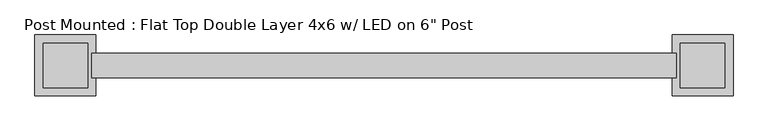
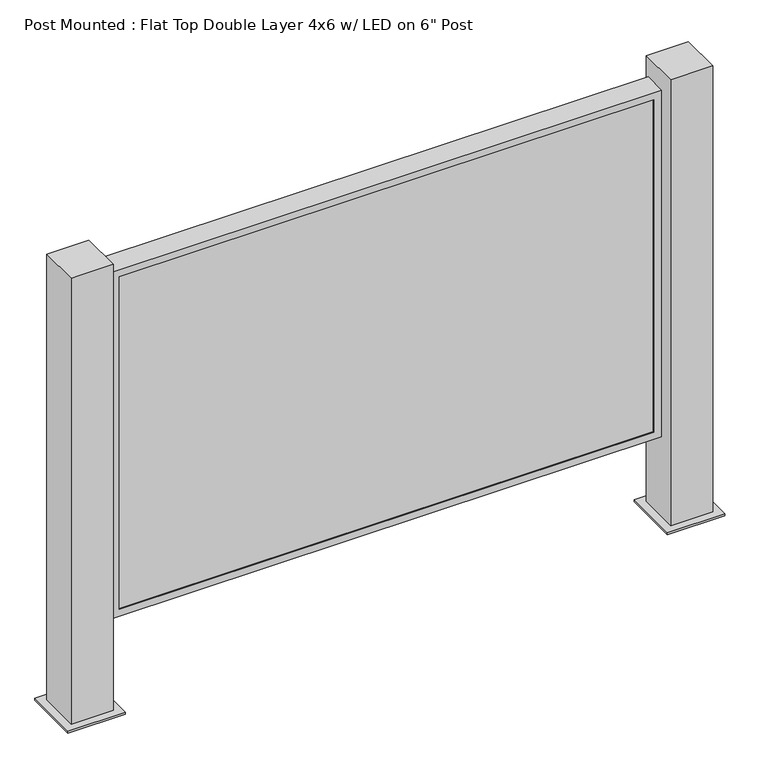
"""IFC4 building model written with IfcOpenShell, lengths in millimetres: proxy geometry."""

import ifcopenshell
import ifcopenshell.guid

model = None  # the IFC model being written
_history = None  # IfcOwnerHistory: only IFC2X3 demands one
_inside = {}  # id of a spatial element -> (the spatial element, [elements in it])
_under = {}  # id of a project, library or spatial element -> (it, [spatial elements below it])
_declared = {}  # id of a project -> (the project, [libraries it declares])
_typed = {}  # id of a type object -> (the type object, [elements of that type])
_made_of = {}  # id of a material, layer set ... -> (it, [elements and type objects made of it])


def new_model(schema):
    """Start an empty IFC model of exactly this schema.

    Asked for "IFC4X3", IfcOpenShell would pick the latest addendum, in which some entities
    have other attributes; the version numbers below select the first issue.
    IFC2X3 requires an IfcOwnerHistory on every rooted entity: one is made here for all.
    """
    global model, _history
    if schema == "IFC4X3":
        model = ifcopenshell.file(schema_version=(4, 3, 0, 0))
    else:
        model = ifcopenshell.file(schema=schema)
    _inside.clear()
    _under.clear()
    _declared.clear()
    _typed.clear()
    _made_of.clear()
    _history = None
    if model.schema == "IFC2X3":
        org = make("IfcOrganization", Name="unknown")
        user = make(
            "IfcPersonAndOrganization",
            ThePerson=make("IfcPerson", FamilyName="unknown"),
            TheOrganization=org,
        )
        app = make(
            "IfcApplication",
            ApplicationDeveloper=org,
            Version="unknown",
            ApplicationFullName="unknown",
            ApplicationIdentifier="unknown",
        )
        _history = make(
            "IfcOwnerHistory",
            OwningUser=user,
            OwningApplication=app,
            ChangeAction="ADDED",
            CreationDate=0,
        )
    return model


def make(cls, **values):
    """One entity of the class cls with the attributes given. An attribute that is None is left unset."""
    return model.create_entity(
        cls, **{name: value for name, value in values.items() if value is not None}
    )


def rooted(cls, **values):
    """An entity with a GlobalId (a new one), such as an element, a storey or a relation."""
    return make(cls, GlobalId=ifcopenshell.guid.new(), OwnerHistory=_history, **values)


def si_unit(unit_type, name, prefix=None):
    """IfcSIUnit, for example si_unit("LENGTHUNIT", "METRE", prefix="MILLI")."""
    return make("IfcSIUnit", UnitType=unit_type, Prefix=prefix, Name=name)


def assignment(units):
    """IfcUnitAssignment: the units of a project."""
    return None if units is None else make("IfcUnitAssignment", Units=units)


def point(xyz):
    """IfcCartesianPoint."""
    return None if xyz is None else make("IfcCartesianPoint", Coordinates=xyz)


def direction(xyz):
    """IfcDirection."""
    return None if xyz is None else make("IfcDirection", DirectionRatios=xyz)


def frame(location, z_axis=None, x_axis=None):
    """IfcAxis2Placement3D, a coordinate frame: its origin and axes. An axis left out is left unset."""
    return make(
        "IfcAxis2Placement3D",
        Location=point(location),
        Axis=direction(z_axis),
        RefDirection=direction(x_axis),
    )


def origin():
    """The frame at (0, 0, 0) with its axes left unset."""
    return frame((0.0, 0.0, 0.0))


def origin_with_axes():
    """The frame at (0, 0, 0) with the z axis (0, 0, 1) and the x axis (1, 0, 0) written out."""
    return frame((0.0, 0.0, 0.0), z_axis=(0.0, 0.0, 1.0), x_axis=(1.0, 0.0, 0.0))


def place(relative_to, where):
    """IfcLocalPlacement: puts the frame where relative to a parent placement (None: the world)."""
    return make(
        "IfcLocalPlacement", PlacementRelTo=relative_to, RelativePlacement=where
    )


def context(
    kind, dimensions, precision=None, world=None, true_north=None, identifier=None
):
    """IfcGeometricRepresentationContext, for example the 3D "Model" context."""
    return make(
        "IfcGeometricRepresentationContext",
        ContextIdentifier=identifier,
        ContextType=kind,
        CoordinateSpaceDimension=dimensions,
        Precision=precision,
        WorldCoordinateSystem=world,
        TrueNorth=true_north,
    )


def project(units=None, contexts=None):
    """IfcProject with its units and contexts."""
    return rooted(
        "IfcProject",
        Name="project",
        RepresentationContexts=contexts,
        UnitsInContext=assignment(units),
    )


def spatial(cls, under=None, at=None, **own):
    """A site, building, storey or space (cls), placed at a placement, below another one or the project."""
    s = rooted(cls, ObjectPlacement=at, **own)
    if under is not None:
        _under.setdefault(under.id(), (under, []))[1].append(s)
    return s


def polyline(points):
    """IfcPolyline through the points."""
    return make("IfcPolyline", Points=[point(p) for p in points])


def outline(outer, holes=None, kind="AREA"):
    """IfcArbitraryClosedProfileDef: a profile drawn as a closed curve; with holes, ...WithVoids."""
    if holes is None:
        return make("IfcArbitraryClosedProfileDef", ProfileType=kind, OuterCurve=outer)
    return make(
        "IfcArbitraryProfileDefWithVoids",
        ProfileType=kind,
        OuterCurve=outer,
        InnerCurves=holes,
    )


def extrude(swept, where, along, depth):
    """IfcExtrudedAreaSolid: the profile swept, set in the frame where, extruded along a direction by depth."""
    return make(
        "IfcExtrudedAreaSolid",
        SweptArea=swept,
        Position=where,
        ExtrudedDirection=direction(along),
        Depth=depth,
    )


def shape(context_of_items, identifier, shape_type, items):
    """IfcShapeRepresentation: the items that make up one representation, for example the "Body"."""
    return make(
        "IfcShapeRepresentation",
        ContextOfItems=context_of_items,
        RepresentationIdentifier=identifier,
        RepresentationType=shape_type,
        Items=items,
    )


def source(mapping_origin, context_of_items, identifier, shape_type, items):
    """IfcRepresentationMap: a shape defined once, which mapped items show again and again."""
    return make(
        "IfcRepresentationMap",
        MappingOrigin=mapping_origin,
        MappedRepresentation=shape(context_of_items, identifier, shape_type, items),
    )


def transform(
    local_origin,
    x_axis=None,
    y_axis=None,
    z_axis=None,
    scale=None,
    scale2=None,
    scale3=None,
    uniform=True,
):
    """IfcCartesianTransformationOperator3D, or its non-uniform kind. x_axis, y_axis, z_axis: its Axis1, 2, 3."""
    if uniform:
        return make(
            "IfcCartesianTransformationOperator3D",
            Axis1=direction(x_axis),
            Axis2=direction(y_axis),
            LocalOrigin=point(local_origin),
            Scale=scale,
            Axis3=direction(z_axis),
        )
    return make(
        "IfcCartesianTransformationOperator3DnonUniform",
        Axis1=direction(x_axis),
        Axis2=direction(y_axis),
        LocalOrigin=point(local_origin),
        Scale=scale,
        Axis3=direction(z_axis),
        Scale2=scale2,
        Scale3=scale3,
    )


def mapped(mapping_source, mapping_target):
    """IfcMappedItem: shows the shape of a source again, moved by a transform."""
    return make(
        "IfcMappedItem", MappingSource=mapping_source, MappingTarget=mapping_target
    )


def made_of(thing, what):
    """Note that an element or type object is made of a material, layer set ...; save() writes the relation."""
    if what is not None:
        _made_of.setdefault(what.id(), (what, []))[1].append(thing)
    return thing


def element(
    cls,
    number,
    at=None,
    inside=None,
    cuts=None,
    type_object=None,
    material=None,
    context=None,
    identifier="Body",
    shape_type=None,
    held_by="IfcProductDefinitionShape",
    body=None,
    shapes=None,
    **own,
):
    """One element of the class cls, such as IfcWall. Its Tag is "e" and its number.

    at: its placement. inside: the storey or other place that contains it. cuts: it is an
    opening in that element (IfcRelVoidsElement). A single representation is given by context,
    identifier, shape_type and body (its items); several are given by shapes. held_by: the class
    of the entity that holds the representations. save() writes the other relations.
    """
    e = rooted(cls, Tag="e%d" % number, ObjectPlacement=at, **own)
    if body is not None:
        shapes = [shape(context, identifier, shape_type, body)]
    if shapes is not None:
        e.Representation = make(held_by, Representations=shapes)
    if inside is not None:
        _inside.setdefault(inside.id(), (inside, []))[1].append(e)
    if cuts is not None:
        rooted(
            "IfcRelVoidsElement", RelatingBuildingElement=cuts, RelatedOpeningElement=e
        )
    if type_object is not None:
        _typed.setdefault(type_object.id(), (type_object, []))[1].append(e)
    return made_of(e, material)


def aggregate(whole, parts):
    """IfcRelAggregates: a whole, such as a stair, and the parts it consists of."""
    return rooted("IfcRelAggregates", RelatingObject=whole, RelatedObjects=parts)


def save(model, path):
    """Write the relations noted so far, then the file.

    IfcRelAggregates (storeys below a building ...), IfcRelContainedInSpatialStructure (elements
    in a storey), IfcRelDefinesByType, IfcRelAssociatesMaterial and IfcRelDeclares: one each for
    every whole, place, type object, material and project.
    """
    for whole, parts in _under.values():
        aggregate(whole, parts)
    for where, things in _inside.values():
        rooted(
            "IfcRelContainedInSpatialStructure",
            RelatedElements=things,
            RelatingStructure=where,
        )
    for kind, things in _typed.values():
        rooted("IfcRelDefinesByType", RelatedObjects=things, RelatingType=kind)
    for what, things in _made_of.values():
        rooted("IfcRelAssociatesMaterial", RelatedObjects=things, RelatingMaterial=what)
    for by, libraries in _declared.values():
        rooted("IfcRelDeclares", RelatingContext=by, RelatedDefinitions=libraries)
    model.write(path)


def proxy_c546ff88(model_context):
    return source(origin(), model_context, "Body", "SweptSolid", [
        extrude(outline(polyline([(1498.6, -841.557955), (330.2, -841.557955), (330.2, 936.442045), (1498.6, 936.442045), (1498.6, -841.557955)]), holes=[polyline([(333.375, 933.267045), (333.375, -838.382955), (1495.425, -838.382955), (1495.425, 933.267045), (333.375, 933.267045)])]), frame((0.0, -31.75, 0.0), z_axis=(0.0, 1.0, 0.0), x_axis=(0.0, 0.0, 1.0)), (0.0, 0.0, 1.0), 63.5),
        extrude(outline(polyline([(-854.257955, 95.25), (-854.257955, -95.25), (-1044.757955, -95.25), (-1044.757955, 95.25), (-854.257955, 95.25)])), origin_with_axes(), (0.0, 0.0, 1.0), 6.35),
        extrude(outline(polyline([(1139.642045, 95.25), (1139.642045, -95.25), (949.142045, -95.25), (949.142045, 95.25), (1139.642045, 95.25)])), origin_with_axes(), (0.0, 0.0, 1.0), 6.35),
        extrude(outline(polyline([(936.442045, -34.925), (-841.557955, -34.925), (-841.557955, -31.75), (936.442045, -31.75), (936.442045, -34.925)])), frame((0.0, 0.0, 330.2), z_axis=(0.0, 0.0, 1.0), x_axis=(1.0, 0.0, 0.0)), (0.0, 0.0, 1.0), 1168.4),
        extrude(outline(polyline([(936.442045, 31.75), (-841.557955, 31.75), (-841.557955, 34.925), (936.442045, 34.925), (936.442045, 31.75)])), frame((0.0, 0.0, 330.2), z_axis=(0.0, 0.0, 1.0), x_axis=(1.0, 0.0, 0.0)), (0.0, 0.0, 1.0), 1168.4),
        extrude(outline(polyline([(1524.0, 961.842045), (1524.0, -866.957955), (304.8, -866.957955), (304.8, 961.842045), (1524.0, 961.842045)]), holes=[polyline([(1498.6, 936.442045), (330.2, 936.442045), (330.2, -841.557955), (1498.6, -841.557955), (1498.6, 936.442045)])]), frame((0.0, -38.1, 0.0), z_axis=(0.0, 1.0, 0.0), x_axis=(0.0, 0.0, 1.0)), (0.0, 0.0, 1.0), 76.2),
        extrude(outline(polyline([(1114.242045, 69.85), (1114.242045, -69.85), (974.542045, -69.85), (974.542045, 69.85), (1114.242045, 69.85)])), frame((0.0, 0.0, 6.35), z_axis=(0.0, 0.0, 1.0), x_axis=(1.0, 0.0, 0.0)), (0.0, 0.0, 1.0), 1568.45),
        extrude(outline(polyline([(-879.657955, 69.85), (-879.657955, -69.85), (-1019.357955, -69.85), (-1019.357955, 69.85), (-879.657955, 69.85)])), frame((0.0, 0.0, 6.35), z_axis=(0.0, 0.0, 1.0), x_axis=(1.0, 0.0, 0.0)), (0.0, 0.0, 1.0), 1568.45),
    ])


if __name__ == "__main__":
    model = new_model("IFC4")
    model_context = context("Model", 3, world=origin())
    ifc_project = project(units=[si_unit("LENGTHUNIT", "METRE", prefix="MILLI")], contexts=[model_context])
    site = spatial("IfcSite", under=ifc_project)
    building = spatial("IfcBuilding", under=site)
    placement = place(None, origin())
    proxy_shape = proxy_c546ff88(model_context)
    element("IfcBuildingElementProxy", 1, Name="Post Mounted : Flat Top Double Layer 4x6 w/ LED on 6\" Post", ObjectType="Post Mounted : Flat Top Double Layer 4x6 w/ LED on 6\" Post", at=placement, inside=building, context=model_context, shape_type="MappedRepresentation", body=[
        mapped(proxy_shape, transform((0.0, 0.0, 0.0), x_axis=(1.0, 0.0, 0.0), y_axis=(0.0, 1.0, 0.0), z_axis=(0.0, 0.0, 1.0))),
    ])
    save(model, "model.ifc")
